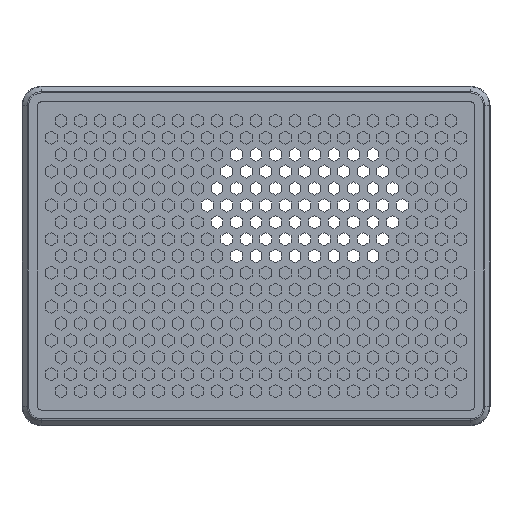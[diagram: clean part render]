
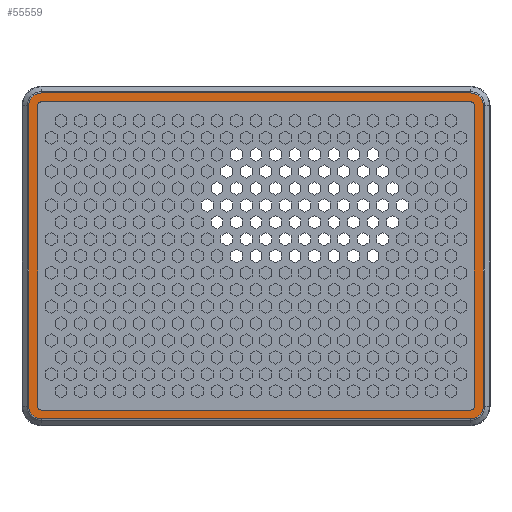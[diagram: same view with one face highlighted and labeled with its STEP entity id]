
A CAD part, top view. The second image highlights one B-rep face of the part: STEP entity #55559.
In plain terms, the highlighted planar face has unit normal (0, 0, 1) as drawn and (1, 0, 0) by its records, which use the part's own axes.
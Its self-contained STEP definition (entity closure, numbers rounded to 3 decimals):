
#38=FACE_BOUND('',#4259,.T.);
#1048=CIRCLE('',#58371,1.);
#1050=CIRCLE('',#58375,1.);
#1052=CIRCLE('',#58379,1.);
#1054=CIRCLE('',#58383,1.);
#1059=CIRCLE('',#58391,3.293);
#1060=CIRCLE('',#58392,3.293);
#1061=CIRCLE('',#58393,3.293);
#1062=CIRCLE('',#58394,3.293);
#1557=FACE_OUTER_BOUND('',#4258,.T.);
#4258=EDGE_LOOP('',(#38286,#38287,#38288,#38289,#38290,#38291,#38292,#38293));
#4259=EDGE_LOOP('',(#38294,#38295,#38296,#38297,#38298,#38299,#38300,#38301));
#8616=LINE('',#76940,#16490);
#8620=LINE('',#76952,#16494);
#8624=LINE('',#76964,#16498);
#8627=LINE('',#76973,#16501);
#8632=LINE('',#76994,#16506);
#8633=LINE('',#76998,#16507);
#8634=LINE('',#77002,#16508);
#8635=LINE('',#77006,#16509);
#16490=VECTOR('',#62947,1000.);
#16494=VECTOR('',#62959,1000.);
#16498=VECTOR('',#62971,1000.);
#16501=VECTOR('',#62982,1000.);
#16506=VECTOR('',#62999,1000.);
#16507=VECTOR('',#63002,1000.);
#16508=VECTOR('',#63005,1000.);
#16509=VECTOR('',#63008,1000.);
#24001=VERTEX_POINT('',#76928);
#24003=VERTEX_POINT('',#76932);
#24005=VERTEX_POINT('',#76938);
#24007=VERTEX_POINT('',#76944);
#24009=VERTEX_POINT('',#76950);
#24011=VERTEX_POINT('',#76956);
#24013=VERTEX_POINT('',#76962);
#24015=VERTEX_POINT('',#76968);
#24024=VERTEX_POINT('',#76992);
#24025=VERTEX_POINT('',#76993);
#24026=VERTEX_POINT('',#76995);
#24027=VERTEX_POINT('',#76997);
#24028=VERTEX_POINT('',#76999);
#24029=VERTEX_POINT('',#77001);
#24030=VERTEX_POINT('',#77003);
#24031=VERTEX_POINT('',#77005);
#29767=EDGE_CURVE('',#24003,#24001,#1048,.T.);
#29770=EDGE_CURVE('',#24005,#24003,#8616,.T.);
#29773=EDGE_CURVE('',#24007,#24005,#1050,.T.);
#29776=EDGE_CURVE('',#24009,#24007,#8620,.T.);
#29779=EDGE_CURVE('',#24011,#24009,#1052,.T.);
#29782=EDGE_CURVE('',#24013,#24011,#8624,.T.);
#29785=EDGE_CURVE('',#24015,#24013,#1054,.T.);
#29787=EDGE_CURVE('',#24001,#24015,#8627,.T.);
#29796=EDGE_CURVE('',#24024,#24025,#8632,.T.);
#29797=EDGE_CURVE('',#24025,#24026,#1059,.T.);
#29798=EDGE_CURVE('',#24026,#24027,#8633,.T.);
#29799=EDGE_CURVE('',#24027,#24028,#1060,.T.);
#29800=EDGE_CURVE('',#24028,#24029,#8634,.T.);
#29801=EDGE_CURVE('',#24029,#24030,#1061,.T.);
#29802=EDGE_CURVE('',#24030,#24031,#8635,.T.);
#29803=EDGE_CURVE('',#24031,#24024,#1062,.T.);
#38286=ORIENTED_EDGE('',*,*,#29796,.T.);
#38287=ORIENTED_EDGE('',*,*,#29797,.T.);
#38288=ORIENTED_EDGE('',*,*,#29798,.T.);
#38289=ORIENTED_EDGE('',*,*,#29799,.T.);
#38290=ORIENTED_EDGE('',*,*,#29800,.T.);
#38291=ORIENTED_EDGE('',*,*,#29801,.T.);
#38292=ORIENTED_EDGE('',*,*,#29802,.T.);
#38293=ORIENTED_EDGE('',*,*,#29803,.T.);
#38294=ORIENTED_EDGE('',*,*,#29776,.F.);
#38295=ORIENTED_EDGE('',*,*,#29779,.F.);
#38296=ORIENTED_EDGE('',*,*,#29782,.F.);
#38297=ORIENTED_EDGE('',*,*,#29785,.F.);
#38298=ORIENTED_EDGE('',*,*,#29787,.F.);
#38299=ORIENTED_EDGE('',*,*,#29767,.F.);
#38300=ORIENTED_EDGE('',*,*,#29770,.F.);
#38301=ORIENTED_EDGE('',*,*,#29773,.F.);
#52904=PLANE('',#58390);
#55559=ADVANCED_FACE('',(#1557,#38),#52904,.T.);
#58371=AXIS2_PLACEMENT_3D('',#76934,#62941,#62942);
#58375=AXIS2_PLACEMENT_3D('',#76946,#62953,#62954);
#58379=AXIS2_PLACEMENT_3D('',#76958,#62965,#62966);
#58383=AXIS2_PLACEMENT_3D('',#76970,#62977,#62978);
#58390=AXIS2_PLACEMENT_3D('',#76991,#62997,#62998);
#58391=AXIS2_PLACEMENT_3D('',#76996,#63000,#63001);
#58392=AXIS2_PLACEMENT_3D('',#77000,#63003,#63004);
#58393=AXIS2_PLACEMENT_3D('',#77004,#63006,#63007);
#58394=AXIS2_PLACEMENT_3D('',#77007,#63009,#63010);
#62941=DIRECTION('center_axis',(1.,0.,0.));
#62942=DIRECTION('ref_axis',(0.,0.,-1.));
#62947=DIRECTION('',(0.,-1.,0.));
#62953=DIRECTION('center_axis',(1.,0.,0.));
#62954=DIRECTION('ref_axis',(0.,0.,-1.));
#62959=DIRECTION('',(0.,0.,1.));
#62965=DIRECTION('center_axis',(1.,0.,0.));
#62966=DIRECTION('ref_axis',(0.,0.,-1.));
#62971=DIRECTION('',(0.,1.,0.));
#62977=DIRECTION('center_axis',(1.,0.,0.));
#62978=DIRECTION('ref_axis',(0.,0.,-1.));
#62982=DIRECTION('',(0.,0.,-1.));
#62997=DIRECTION('center_axis',(1.,0.,0.));
#62998=DIRECTION('ref_axis',(0.,0.,-1.));
#62999=DIRECTION('',(0.,0.,1.));
#63000=DIRECTION('center_axis',(1.,0.,0.));
#63001=DIRECTION('ref_axis',(0.,0.,-1.));
#63002=DIRECTION('',(0.,-1.,0.));
#63003=DIRECTION('center_axis',(1.,0.,0.));
#63004=DIRECTION('ref_axis',(0.,0.,-1.));
#63005=DIRECTION('',(0.,0.,-1.));
#63006=DIRECTION('center_axis',(1.,0.,0.));
#63007=DIRECTION('ref_axis',(0.,0.,-1.));
#63008=DIRECTION('',(0.,1.,0.));
#63009=DIRECTION('center_axis',(1.,0.,0.));
#63010=DIRECTION('ref_axis',(0.,0.,-1.));
#76928=CARTESIAN_POINT('',(2.5,-56.,38.5));
#76932=CARTESIAN_POINT('',(2.5,-55.,39.5));
#76934=CARTESIAN_POINT('Origin',(2.5,-55.,38.5));
#76938=CARTESIAN_POINT('',(2.5,55.,39.5));
#76940=CARTESIAN_POINT('',(2.5,55.,39.5));
#76944=CARTESIAN_POINT('',(2.5,56.,38.5));
#76946=CARTESIAN_POINT('Origin',(2.5,55.,38.5));
#76950=CARTESIAN_POINT('',(2.5,56.,-38.5));
#76952=CARTESIAN_POINT('',(2.5,56.,-38.5));
#76956=CARTESIAN_POINT('',(2.5,55.,-39.5));
#76958=CARTESIAN_POINT('Origin',(2.5,55.,-38.5));
#76962=CARTESIAN_POINT('',(2.5,-55.,-39.5));
#76964=CARTESIAN_POINT('',(2.5,-55.,-39.5));
#76968=CARTESIAN_POINT('',(2.5,-56.,-38.5));
#76970=CARTESIAN_POINT('Origin',(2.5,-55.,-38.5));
#76973=CARTESIAN_POINT('',(2.5,-56.,38.5));
#76991=CARTESIAN_POINT('Origin',(2.5,55.,-38.5));
#76992=CARTESIAN_POINT('',(2.5,58.293,-38.5));
#76993=CARTESIAN_POINT('',(2.5,58.293,38.5));
#76994=CARTESIAN_POINT('',(2.5,58.293,-38.5));
#76995=CARTESIAN_POINT('',(2.5,55.,41.793));
#76996=CARTESIAN_POINT('Origin',(2.5,55.,38.5));
#76997=CARTESIAN_POINT('',(2.5,-55.,41.793));
#76998=CARTESIAN_POINT('',(2.5,55.,41.793));
#76999=CARTESIAN_POINT('',(2.5,-58.293,38.5));
#77000=CARTESIAN_POINT('Origin',(2.5,-55.,38.5));
#77001=CARTESIAN_POINT('',(2.5,-58.293,-38.5));
#77002=CARTESIAN_POINT('',(2.5,-58.293,-38.5));
#77003=CARTESIAN_POINT('',(2.5,-55.,-41.793));
#77004=CARTESIAN_POINT('Origin',(2.5,-55.,-38.5));
#77005=CARTESIAN_POINT('',(2.5,55.,-41.793));
#77006=CARTESIAN_POINT('',(2.5,55.,-41.793));
#77007=CARTESIAN_POINT('Origin',(2.5,55.,-38.5));
